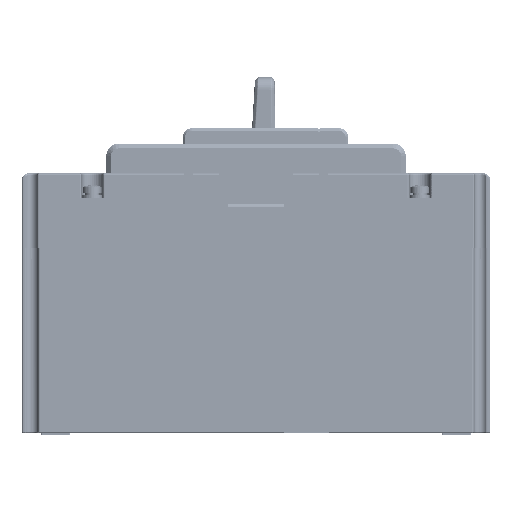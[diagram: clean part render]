
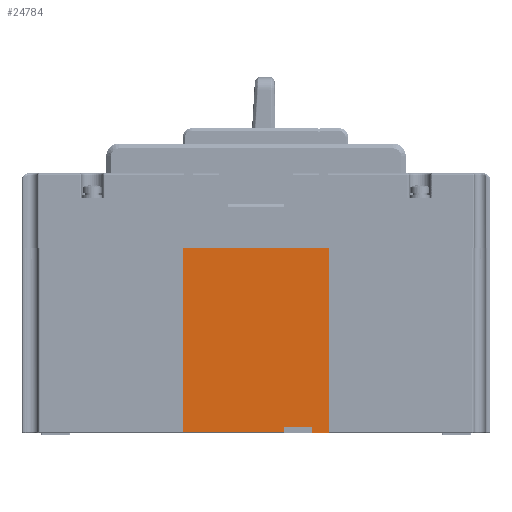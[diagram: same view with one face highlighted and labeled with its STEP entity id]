
A CAD part, left-side view. The second image highlights one B-rep face of the part: STEP entity #24784.
In plain terms, the highlighted planar face has unit normal (-1, 0, 0).
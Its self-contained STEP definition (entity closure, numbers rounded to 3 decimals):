
#958=DIRECTION('',(0.,1.,0.));
#959=VECTOR('',#958,47.);
#960=CARTESIAN_POINT('',(0.5,51.5,60.));
#961=LINE('',#960,#959);
#1776=DIRECTION('',(0.,0.,1.));
#1777=VECTOR('',#1776,1.5);
#1778=CARTESIAN_POINT('',(0.5,66.,1.));
#1779=LINE('',#1778,#1777);
#3584=DIRECTION('',(0.,0.,-1.));
#3585=VECTOR('',#3584,59.);
#3586=CARTESIAN_POINT('',(0.5,98.5,60.));
#3587=LINE('',#3586,#3585);
#3606=DIRECTION('',(0.,0.,-1.));
#3607=VECTOR('',#3606,59.5);
#3608=CARTESIAN_POINT('',(0.5,51.5,60.));
#3609=LINE('',#3608,#3607);
#3610=DIRECTION('',(0.,1.,0.));
#3611=VECTOR('',#3610,5.5);
#3612=CARTESIAN_POINT('',(0.5,51.5,0.5));
#3613=LINE('',#3612,#3611);
#3614=DIRECTION('',(0.,0.,1.));
#3615=VECTOR('',#3614,2.);
#3616=CARTESIAN_POINT('',(0.5,57.,0.5));
#3617=LINE('',#3616,#3615);
#3618=DIRECTION('',(0.,1.,0.));
#3619=VECTOR('',#3618,9.);
#3620=CARTESIAN_POINT('',(0.5,57.,2.5));
#3621=LINE('',#3620,#3619);
#3622=DIRECTION('',(0.,-1.,0.));
#3623=VECTOR('',#3622,32.5);
#3624=CARTESIAN_POINT('',(0.5,98.5,1.));
#3625=LINE('',#3624,#3623);
#16983=CARTESIAN_POINT('',(0.5,66.,1.));
#16984=VERTEX_POINT('',#16983);
#16985=CARTESIAN_POINT('',(0.5,66.,2.5));
#16986=VERTEX_POINT('',#16985);
#16993=CARTESIAN_POINT('',(0.5,98.5,1.));
#16994=VERTEX_POINT('',#16993);
#16995=CARTESIAN_POINT('',(0.5,98.5,60.));
#16996=VERTEX_POINT('',#16995);
#16997=CARTESIAN_POINT('',(0.5,51.5,60.));
#16998=VERTEX_POINT('',#16997);
#16999=CARTESIAN_POINT('',(0.5,51.5,0.5));
#17000=VERTEX_POINT('',#16999);
#17001=CARTESIAN_POINT('',(0.5,57.,0.5));
#17002=VERTEX_POINT('',#17001);
#17003=CARTESIAN_POINT('',(0.5,57.,2.5));
#17004=VERTEX_POINT('',#17003);
#24764=CARTESIAN_POINT('',(0.5,51.5,60.));
#24765=DIRECTION('',(1.,0.,0.));
#24766=DIRECTION('',(0.,1.,0.));
#24767=AXIS2_PLACEMENT_3D('',#24764,#24765,#24766);
#24768=PLANE('',#24767);
#24770=ORIENTED_EDGE('',*,*,#24769,.F.);
#24771=ORIENTED_EDGE('',*,*,#24753,.F.);
#24772=ORIENTED_EDGE('',*,*,#21908,.F.);
#24774=ORIENTED_EDGE('',*,*,#24773,.T.);
#24776=ORIENTED_EDGE('',*,*,#24775,.T.);
#24778=ORIENTED_EDGE('',*,*,#24777,.T.);
#24780=ORIENTED_EDGE('',*,*,#24779,.T.);
#24781=ORIENTED_EDGE('',*,*,#22967,.F.);
#24782=EDGE_LOOP('',(#24770,#24771,#24772,#24774,#24776,#24778,#24780,#24781));
#24783=FACE_OUTER_BOUND('',#24782,.F.);
#24784=ADVANCED_FACE('',(#24783),#24768,.F.);
#21908=EDGE_CURVE('',#16998,#16996,#961,.T.);
#22967=EDGE_CURVE('',#16984,#16986,#1779,.T.);
#24753=EDGE_CURVE('',#16996,#16994,#3587,.T.);
#24769=EDGE_CURVE('',#16994,#16984,#3625,.T.);
#24773=EDGE_CURVE('',#16998,#17000,#3609,.T.);
#24775=EDGE_CURVE('',#17000,#17002,#3613,.T.);
#24777=EDGE_CURVE('',#17002,#17004,#3617,.T.);
#24779=EDGE_CURVE('',#17004,#16986,#3621,.T.);
